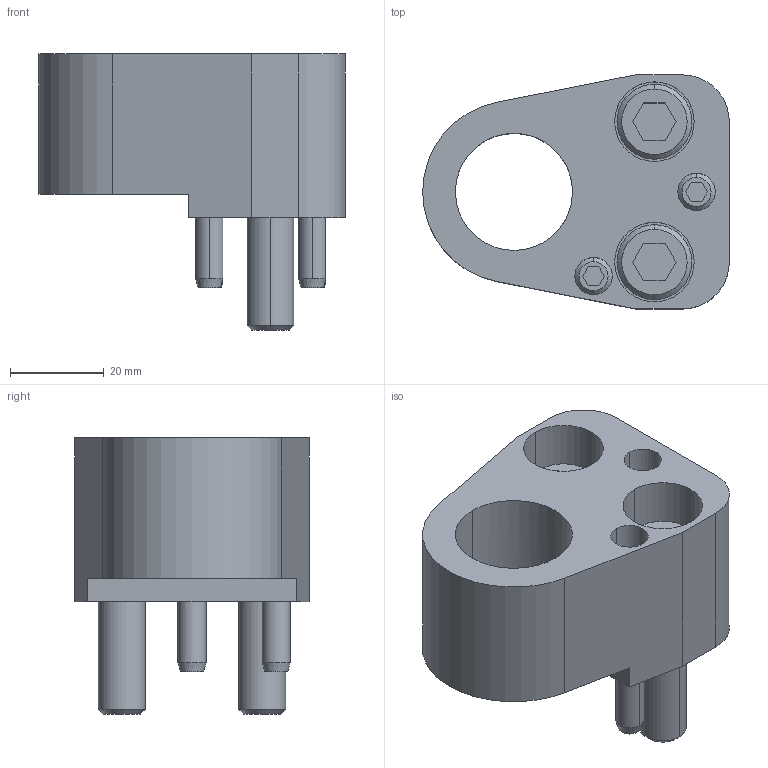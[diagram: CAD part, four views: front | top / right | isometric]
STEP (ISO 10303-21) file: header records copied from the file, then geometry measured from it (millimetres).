
FILE_DESCRIPTION(/* description */ (''),/* implementation_level */ '2;1');
FILE_NAME(/* name */ '3d_hapfr25_04017_r00.stp',/* time_stamp */ '2011-01-10T14:14:56+09:00',/* author */ ('MISUMI'),/* organization */ (''),/* preprocessor_version */ 'ST-DEVELOPER v11',/* originating_system */ 'UGS - NX 5.0',/* authorisation */ '');
FILE_SCHEMA (('CONFIG_CONTROL_DESIGN'));
Length unit declared in the file: millimetre
Products named in the file (1): 3d_hapfr25_04017_r00
Bounding box: 65.5 x 50 x 59 mm (x, y, z)
Volume: 71964.1 mm3; surface area: 24246.4 mm2
Topology: 7 solids, 7 shells, 134 faces, 298 edges, 191 vertices
Faces by surface type: plane 61, cylinder 47, cone 26
Entity records: 3858 total; most frequent: CARTESIAN_POINT 683, DIRECTION 682, ORIENTED_EDGE 596, EDGE_CURVE 298, AXIS2_PLACEMENT_3D 256, VERTEX_POINT 191, LINE 170, VECTOR 170
